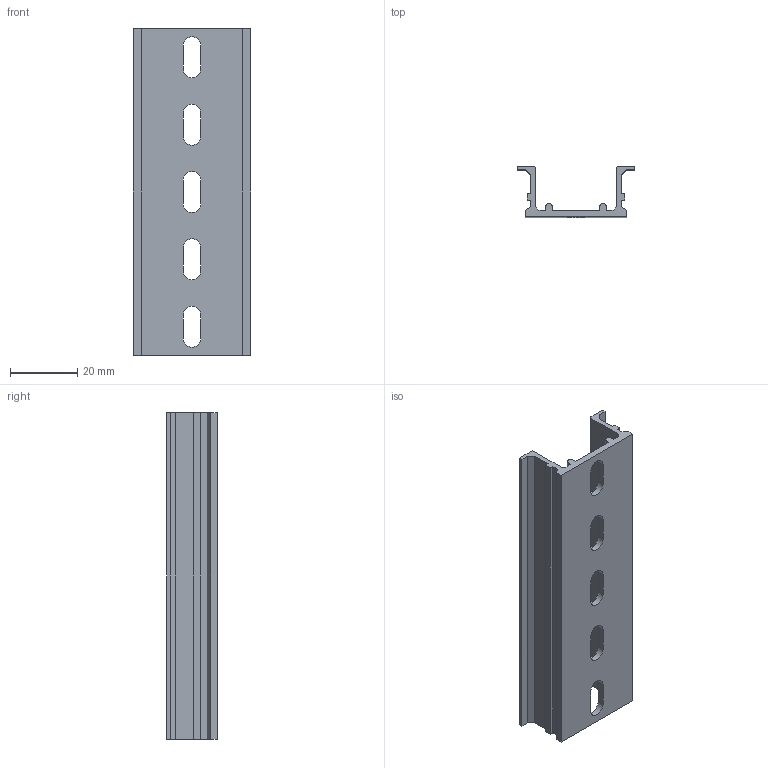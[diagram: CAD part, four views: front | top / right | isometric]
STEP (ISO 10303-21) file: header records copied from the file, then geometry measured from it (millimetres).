
FILE_DESCRIPTION(/* description */ (''),/* implementation_level */ '2;1');
FILE_NAME(/* name */ '22646-(TKB KD-5)HP 3D.stp',/* time_stamp */ '2024-12-05T13:52:46+09:00',/* author */ ('usercadg104'),/* organization */ (''),/* preprocessor_version */ 'ST-DEVELOPER v19.2',/* originating_system */ 'Autodesk Inventor 2023',/* authorisation */ '');
FILE_SCHEMA (('CONFIG_CONTROL_DESIGN'));
Length unit declared in the file: millimetre
Products named in the file (1): 22646-(TKB KD-5)HP 3D
Bounding box: 35 x 15 x 97 mm (x, y, z)
Volume: 11333.7 mm3; surface area: 13313 mm2
Topology: 1 solids, 1 shells, 60 faces, 174 edges, 116 vertices
Faces by surface type: plane 46, cylinder 14
Entity records: 2029 total; most frequent: CARTESIAN_POINT 351, ORIENTED_EDGE 348, DIRECTION 324, EDGE_CURVE 174, LINE 146, VECTOR 146, VERTEX_POINT 116, AXIS2_PLACEMENT_3D 89
